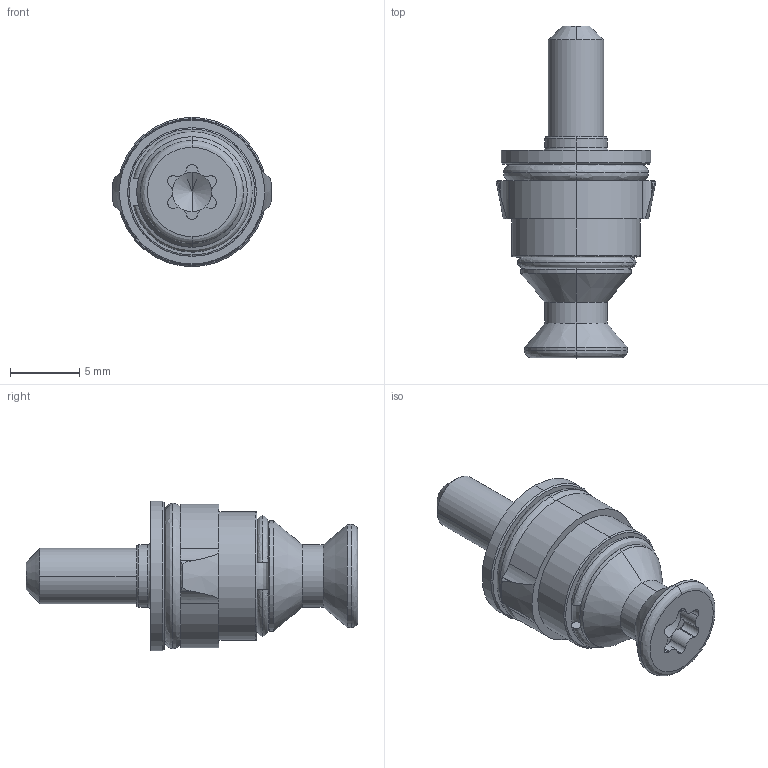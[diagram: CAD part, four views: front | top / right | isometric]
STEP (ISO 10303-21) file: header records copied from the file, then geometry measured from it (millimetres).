
FILE_DESCRIPTION (( 'STEP AP203' ), '1' );
FILE_NAME ('QS022-EAA-M4.STEP', '2017-06-07T09:10:29', ( '' ), ( '' ), 'SwSTEP 2.0', 'SolidWorks 2017', '' );
FILE_SCHEMA (( 'CONFIG_CONTROL_DESIGN' ));
Length unit declared in the file: millimetre
Products named in the file (1): QS022-EAA-M4
Bounding box: 11.52 x 24 x 10.8 mm (x, y, z)
Volume: 947.1 mm3; surface area: 1464.2 mm2
Topology: 5 solids, 5 shells, 119 faces, 282 edges, 171 vertices
Faces by surface type: cylinder 48, plane 27, bspline 22, cone 22
Entity records: 3983 total; most frequent: CARTESIAN_POINT 1237, DIRECTION 584, ORIENTED_EDGE 552, EDGE_CURVE 276, AXIS2_PLACEMENT_3D 246, VERTEX_POINT 171, CIRCLE 148, EDGE_LOOP 127
